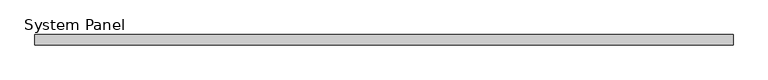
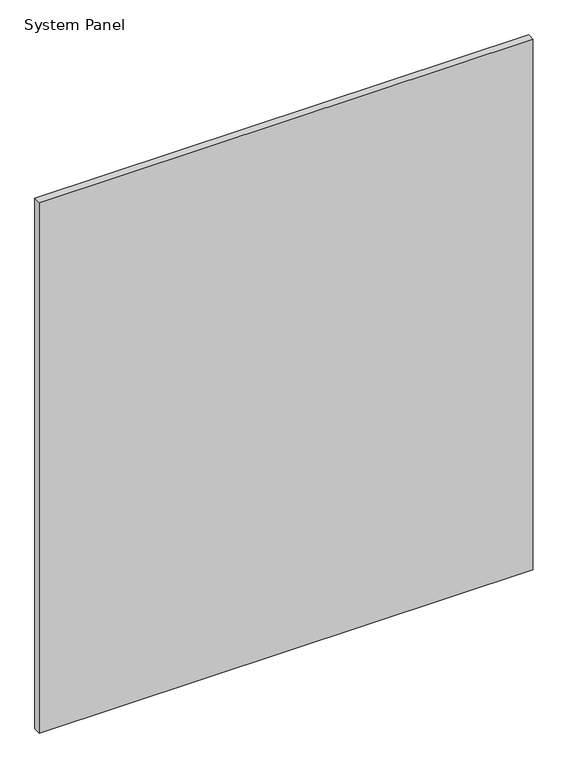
"""IFC4 building model written with IfcOpenShell, lengths in millimetres: plate geometry, System Panel : Panel_Glazed_Generic Showcase_30mm."""

from ifc_helpers import new_model, si_unit, origin, origin_with_axes, place, context, project, spatial, polyline, outline, extrude, source, transform, mapped, element, save


def system_panel_2c5456f6(model_context):
    return source(origin(), model_context, "Body", "SweptSolid", [
        extrude(outline(polyline([(1012.5, 0.0), (-1012.5, 0.0), (-1012.5, 30.0), (1012.5, 30.0), (1012.5, 0.0)])), origin_with_axes(), (0.0, 0.0, 1.0), 2300.0),
    ])


if __name__ == "__main__":
    model = new_model("IFC4")
    model_context = context("Model", 3, world=origin())
    ifc_project = project(units=[si_unit("LENGTHUNIT", "METRE", prefix="MILLI")], contexts=[model_context])
    site = spatial("IfcSite", under=ifc_project)
    building = spatial("IfcBuilding", under=site)
    placement = place(None, origin())
    system_panel_shape = system_panel_2c5456f6(model_context)
    element("IfcPlate", 1, ObjectType="System Panel : Panel_Glazed_Generic Showcase_30mm", at=placement, inside=building, context=model_context, shape_type="MappedRepresentation", body=[
        mapped(system_panel_shape, transform((0.0, 0.0, 0.0), x_axis=(1.0, 0.0, 0.0), y_axis=(0.0, 1.0, 0.0), z_axis=(0.0, 0.0, 1.0))),
    ])
    save(model, "model.ifc")
